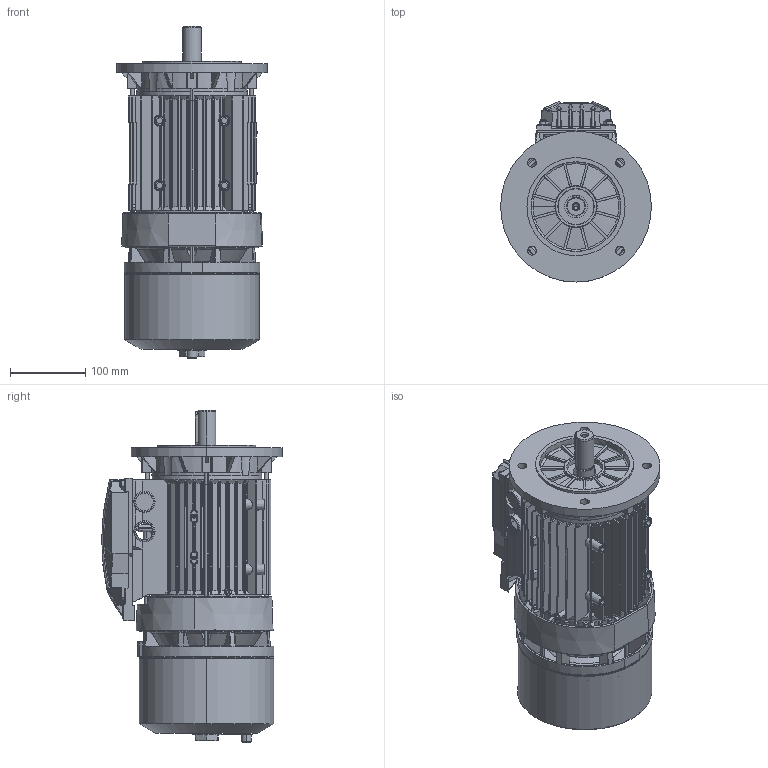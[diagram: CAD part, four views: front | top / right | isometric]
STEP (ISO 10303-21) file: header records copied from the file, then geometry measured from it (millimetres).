
FILE_DESCRIPTION (( 'STEP AP214' ), '1' );
FILE_NAME ('M02FB0017.STEP', '2023-12-05T10:24:34', ( '' ), ( '' ), 'SwSTEP 2.0', 'SolidWorks 2023', '' );
FILE_SCHEMA (( 'AUTOMOTIVE_DESIGN' ));
Length unit declared in the file: millimetre
Products named in the file (16): M02FB0017; Pipetta con ali con cavi (Render); Scudo a flangia B5 Fi 200 BA-BM 90 - DDAA00195; Vite a Testa Esagona con foro e tappo 71-112 - Modificata; O-ring freno BA 90; Tirante BA 90L - DBA60094; Coperchio 100-112 DI; Scudo lato freno BA 90 P1 - DI_Soluzione 2; Vite per coperchio morsettiera; Chiavetta 90; Targhetta Piegata BA 90L DI; Carcassa 90 L B5 - DI; Convogliatore con pista d''attrito P2 BA 90 - DDAF0195; Guarnizione Coperchio scatola 100-112 DI; Albero BA 90 L; Cuffia serie BA 90
Assembly tree (22 placements, depth 2):
  M02FB0017
    Carcassa 90 L B5 - DI
    Coperchio 100-112 DI
    Scudo a flangia B5 Fi 200 BA-BM 90 - DDAA00195
    Scudo lato freno BA 90 P1 - DI_Soluzione 2
    Guarnizione Coperchio scatola 100-112 DI
    Targhetta Piegata BA 90L DI
    Albero BA 90 L
    Chiavetta 90
    Convogliatore con pista d''attrito P2 BA 90 - DDAF0195
    O-ring freno BA 90
    Cuffia serie BA 90
    Pipetta con ali con cavi (Render)  x2
    Tirante BA 90L - DBA60094  x4
    Vite per coperchio morsettiera  x4
    Vite a Testa Esagona con foro e tappo 71-112 - Modificata
Bounding box: 200 x 238.99 x 440.18 mm (x, y, z)
Volume: 1882512.8 mm3; surface area: 1051025.6 mm2
Topology: 31 solids, 31 shells, 4363 faces, 11673 edges, 7395 vertices
Faces by surface type: plane 1790, cylinder 1022, bspline 576, cone 509, torus 436, sphere 30
Entity records: 187684 total; most frequent: CARTESIAN_POINT 77071, ORIENTED_EDGE 21880, DIRECTION 17808, EDGE_CURVE 10940, VERTEX_POINT 7015, AXIS2_PLACEMENT_3D 6400, LINE 5008, VECTOR 5008
